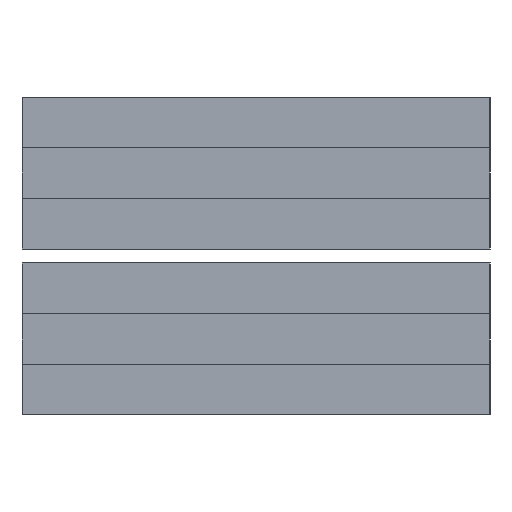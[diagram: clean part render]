
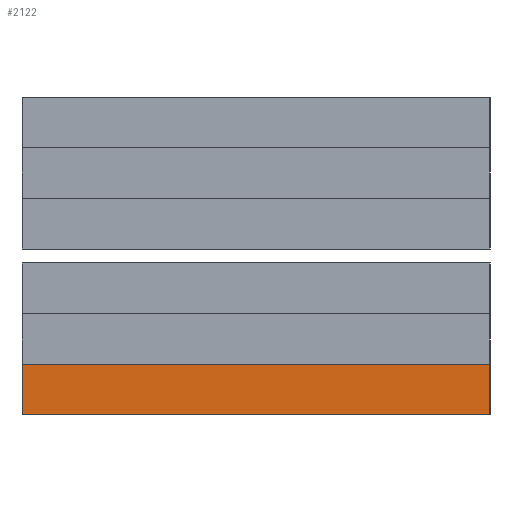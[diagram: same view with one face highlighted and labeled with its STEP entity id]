
A CAD part, left-side view. The second image highlights one B-rep face of the part: STEP entity #2122.
In plain terms, the highlighted planar face has unit normal (-1, 0, 0).
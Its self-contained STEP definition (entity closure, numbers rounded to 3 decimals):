
#2122 = ADVANCED_FACE('',(#2123),#2137,.F.);
#2123 = FACE_BOUND('',#2124,.F.);
#2124 = EDGE_LOOP('',(#2125,#2160,#2188,#2216));
#2125 = ORIENTED_EDGE('',*,*,#2126,.F.);
#2126 = EDGE_CURVE('',#2127,#2129,#2131,.T.);
#2127 = VERTEX_POINT('',#2128);
#2128 = CARTESIAN_POINT('',(-13.925,-23.599,56.75));
#2129 = VERTEX_POINT('',#2130);
#2130 = CARTESIAN_POINT('',(-13.925,-23.599,59.23));
#2131 = SURFACE_CURVE('',#2132,(#2136,#2148),.PCURVE_S1.);
#2132 = LINE('',#2133,#2134);
#2133 = CARTESIAN_POINT('',(-13.925,-23.599,56.75));
#2134 = VECTOR('',#2135,1.);
#2135 = DIRECTION('',(0.,0.,1.));
#2136 = PCURVE('',#2137,#2142);
#2137 = PLANE('',#2138);
#2138 = AXIS2_PLACEMENT_3D('',#2139,#2140,#2141);
#2139 = CARTESIAN_POINT('',(-13.925,-23.599,56.75));
#2140 = DIRECTION('',(1.,0.,0.));
#2141 = DIRECTION('',(0.,0.,1.));
#2142 = DEFINITIONAL_REPRESENTATION('',(#2143),#2147);
#2143 = LINE('',#2144,#2145);
#2144 = CARTESIAN_POINT('',(0.,0.));
#2145 = VECTOR('',#2146,1.);
#2146 = DIRECTION('',(1.,0.));
#2147 = ( GEOMETRIC_REPRESENTATION_CONTEXT(2) 
PARAMETRIC_REPRESENTATION_CONTEXT() REPRESENTATION_CONTEXT('2D SPACE',''
  ) );
#2148 = PCURVE('',#2149,#2154);
#2149 = PLANE('',#2150);
#2150 = AXIS2_PLACEMENT_3D('',#2151,#2152,#2153);
#2151 = CARTESIAN_POINT('',(-13.925,-23.599,56.75));
#2152 = DIRECTION('',(0.,1.,0.));
#2153 = DIRECTION('',(0.,0.,1.));
#2154 = DEFINITIONAL_REPRESENTATION('',(#2155),#2159);
#2155 = LINE('',#2156,#2157);
#2156 = CARTESIAN_POINT('',(0.,0.));
#2157 = VECTOR('',#2158,1.);
#2158 = DIRECTION('',(1.,0.));
#2159 = ( GEOMETRIC_REPRESENTATION_CONTEXT(2) 
PARAMETRIC_REPRESENTATION_CONTEXT() REPRESENTATION_CONTEXT('2D SPACE',''
  ) );
#2160 = ORIENTED_EDGE('',*,*,#2161,.T.);
#2161 = EDGE_CURVE('',#2127,#2162,#2164,.T.);
#2162 = VERTEX_POINT('',#2163);
#2163 = CARTESIAN_POINT('',(-13.925,-0.691,56.75));
#2164 = SURFACE_CURVE('',#2165,(#2169,#2176),.PCURVE_S1.);
#2165 = LINE('',#2166,#2167);
#2166 = CARTESIAN_POINT('',(-13.925,-23.599,56.75));
#2167 = VECTOR('',#2168,1.);
#2168 = DIRECTION('',(0.,1.,0.));
#2169 = PCURVE('',#2137,#2170);
#2170 = DEFINITIONAL_REPRESENTATION('',(#2171),#2175);
#2171 = LINE('',#2172,#2173);
#2172 = CARTESIAN_POINT('',(0.,0.));
#2173 = VECTOR('',#2174,1.);
#2174 = DIRECTION('',(0.,-1.));
#2175 = ( GEOMETRIC_REPRESENTATION_CONTEXT(2) 
PARAMETRIC_REPRESENTATION_CONTEXT() REPRESENTATION_CONTEXT('2D SPACE',''
  ) );
#2176 = PCURVE('',#2177,#2182);
#2177 = PLANE('',#2178);
#2178 = AXIS2_PLACEMENT_3D('',#2179,#2180,#2181);
#2179 = CARTESIAN_POINT('',(-13.925,-23.599,56.75));
#2180 = DIRECTION('',(0.,0.,1.));
#2181 = DIRECTION('',(1.,0.,0.));
#2182 = DEFINITIONAL_REPRESENTATION('',(#2183),#2187);
#2183 = LINE('',#2184,#2185);
#2184 = CARTESIAN_POINT('',(0.,0.));
#2185 = VECTOR('',#2186,1.);
#2186 = DIRECTION('',(0.,1.));
#2187 = ( GEOMETRIC_REPRESENTATION_CONTEXT(2) 
PARAMETRIC_REPRESENTATION_CONTEXT() REPRESENTATION_CONTEXT('2D SPACE',''
  ) );
#2188 = ORIENTED_EDGE('',*,*,#2189,.T.);
#2189 = EDGE_CURVE('',#2162,#2190,#2192,.T.);
#2190 = VERTEX_POINT('',#2191);
#2191 = CARTESIAN_POINT('',(-13.925,-0.691,59.23));
#2192 = SURFACE_CURVE('',#2193,(#2197,#2204),.PCURVE_S1.);
#2193 = LINE('',#2194,#2195);
#2194 = CARTESIAN_POINT('',(-13.925,-0.691,56.75));
#2195 = VECTOR('',#2196,1.);
#2196 = DIRECTION('',(0.,0.,1.));
#2197 = PCURVE('',#2137,#2198);
#2198 = DEFINITIONAL_REPRESENTATION('',(#2199),#2203);
#2199 = LINE('',#2200,#2201);
#2200 = CARTESIAN_POINT('',(0.,-22.909));
#2201 = VECTOR('',#2202,1.);
#2202 = DIRECTION('',(1.,0.));
#2203 = ( GEOMETRIC_REPRESENTATION_CONTEXT(2) 
PARAMETRIC_REPRESENTATION_CONTEXT() REPRESENTATION_CONTEXT('2D SPACE',''
  ) );
#2204 = PCURVE('',#2205,#2210);
#2205 = PLANE('',#2206);
#2206 = AXIS2_PLACEMENT_3D('',#2207,#2208,#2209);
#2207 = CARTESIAN_POINT('',(-13.925,-0.691,56.75));
#2208 = DIRECTION('',(0.,1.,0.));
#2209 = DIRECTION('',(0.,0.,1.));
#2210 = DEFINITIONAL_REPRESENTATION('',(#2211),#2215);
#2211 = LINE('',#2212,#2213);
#2212 = CARTESIAN_POINT('',(0.,0.));
#2213 = VECTOR('',#2214,1.);
#2214 = DIRECTION('',(1.,0.));
#2215 = ( GEOMETRIC_REPRESENTATION_CONTEXT(2) 
PARAMETRIC_REPRESENTATION_CONTEXT() REPRESENTATION_CONTEXT('2D SPACE',''
  ) );
#2216 = ORIENTED_EDGE('',*,*,#2217,.F.);
#2217 = EDGE_CURVE('',#2129,#2190,#2218,.T.);
#2218 = SURFACE_CURVE('',#2219,(#2223,#2230),.PCURVE_S1.);
#2219 = LINE('',#2220,#2221);
#2220 = CARTESIAN_POINT('',(-13.925,-23.599,59.23));
#2221 = VECTOR('',#2222,1.);
#2222 = DIRECTION('',(0.,1.,0.));
#2223 = PCURVE('',#2137,#2224);
#2224 = DEFINITIONAL_REPRESENTATION('',(#2225),#2229);
#2225 = LINE('',#2226,#2227);
#2226 = CARTESIAN_POINT('',(2.48,0.));
#2227 = VECTOR('',#2228,1.);
#2228 = DIRECTION('',(0.,-1.));
#2229 = ( GEOMETRIC_REPRESENTATION_CONTEXT(2) 
PARAMETRIC_REPRESENTATION_CONTEXT() REPRESENTATION_CONTEXT('2D SPACE',''
  ) );
#2230 = PCURVE('',#2231,#2236);
#2231 = PLANE('',#2232);
#2232 = AXIS2_PLACEMENT_3D('',#2233,#2234,#2235);
#2233 = CARTESIAN_POINT('',(-13.925,-23.599,59.23));
#2234 = DIRECTION('',(0.,0.,1.));
#2235 = DIRECTION('',(1.,0.,0.));
#2236 = DEFINITIONAL_REPRESENTATION('',(#2237),#2241);
#2237 = LINE('',#2238,#2239);
#2238 = CARTESIAN_POINT('',(0.,0.));
#2239 = VECTOR('',#2240,1.);
#2240 = DIRECTION('',(0.,1.));
#2241 = ( GEOMETRIC_REPRESENTATION_CONTEXT(2) 
PARAMETRIC_REPRESENTATION_CONTEXT() REPRESENTATION_CONTEXT('2D SPACE',''
  ) );
